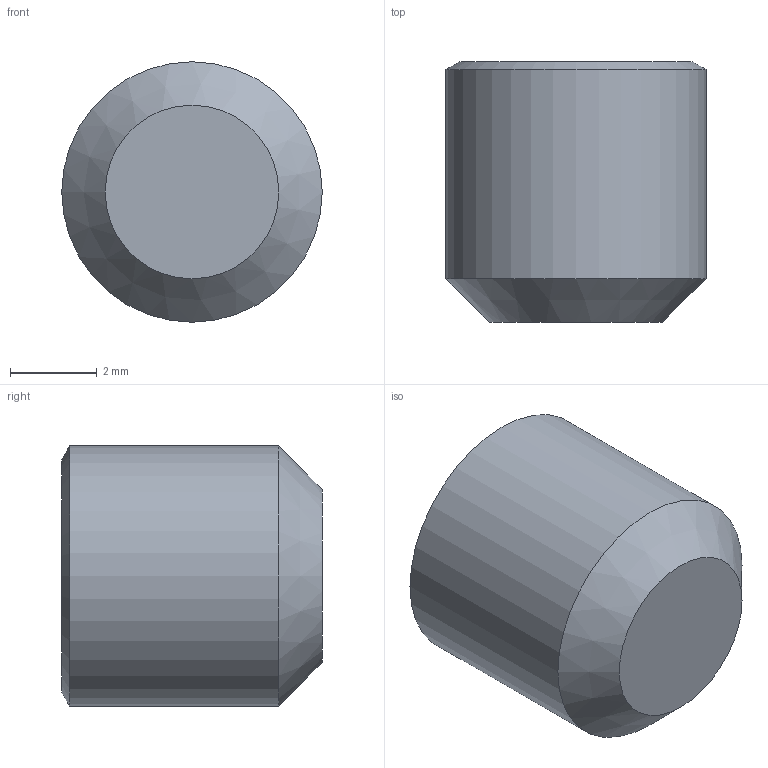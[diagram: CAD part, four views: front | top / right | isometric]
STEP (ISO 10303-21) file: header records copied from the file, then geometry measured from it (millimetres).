
FILE_DESCRIPTION(/* description */ (''),/* implementation_level */ '2;1');
FILE_NAME(/* name */ 'C:\Users\D\Documents\Inventor\各種小物\JIS\止めねじ\平先\M6\M6x6.stp',/* time_stamp */ '2022-06-23T14:26:14+09:00',/* author */ ('D'),/* organization */ (''),/* preprocessor_version */ 'ST-DEVELOPER v18',/* originating_system */ 'Autodesk Inventor 2020',/* authorisation */ '');
FILE_SCHEMA (('AUTOMOTIVE_DESIGN { 1 0 10303 214 3 1 1 }'));
Length unit declared in the file: millimetre
Products named in the file (1): M1.6x2
Bounding box: 6 x 6 x 6 mm (x, y, z)
Volume: 142.1 mm3; surface area: 177.7 mm2
Topology: 1 solids, 1 shells, 12 faces, 28 edges, 18 vertices
Faces by surface type: plane 8, cone 3, cylinder 1
Full cylindrical faces by diameter (mm): 6 x1
Entity records: 369 total; most frequent: CARTESIAN_POINT 72, ORIENTED_EDGE 54, DIRECTION 50, EDGE_CURVE 27, VERTEX_POINT 18, AXIS2_PLACEMENT_3D 17, LINE 16, VECTOR 16
